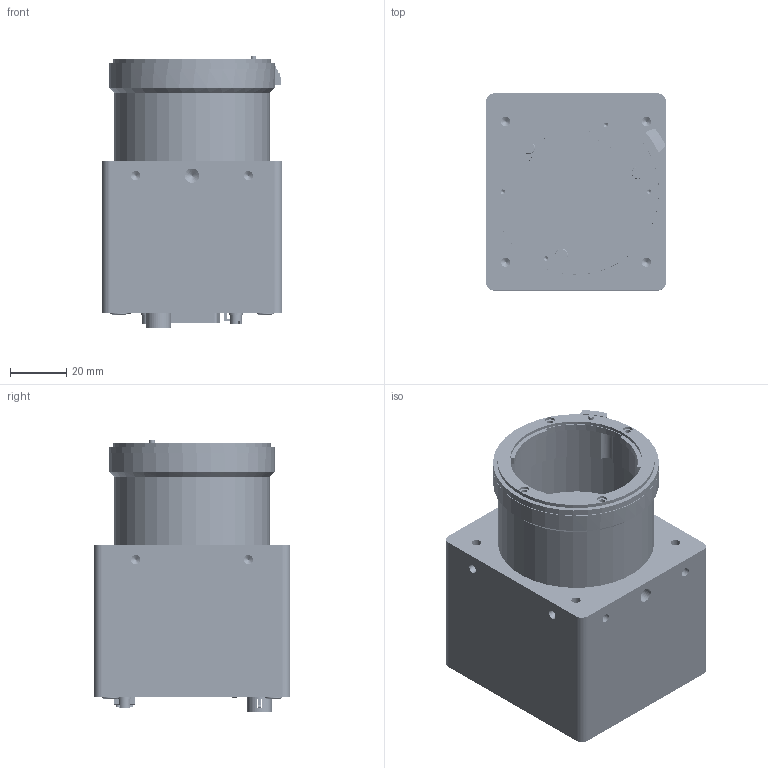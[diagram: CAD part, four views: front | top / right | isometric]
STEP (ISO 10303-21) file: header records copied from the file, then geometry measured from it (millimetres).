
FILE_DESCRIPTION (( 'STEP AP214' ), '1' );
FILE_NAME ('SUFi7440_SUi7450T2.STEP', '2019-04-18T01:15:12', ( '' ), ( '' ), 'SwSTEP 2.0', 'SolidWorks 2016', '' );
FILE_SCHEMA (( 'AUTOMOTIVE_DESIGN' ));
Length unit declared in the file: millimetre
Products named in the file (35): コネクタ^C5-5094-00-43_6／コネクタ_HR10G-7R-6PB; C5-5175-00-43_2／ピッチコネクタ_FX8C-100P-SV2; ATMELマウント本体筒; C5-5029-00-40_06／六角穴付ボルト M2.6X06 SUS_SCB2.6-6; 114-87-422-41-117101; C4-1108-02-37／フロントパネル; 菊座^C5-5094-00-43_6／コネクタ_HR10G-7R-6PB; C4-1013-01-37／胴体カバー; 基板^C5-1031-01-38／メイン基板_PCB-SUFi74R-M1-00#F; C5-5012-00-40_12／座付きなべ頭小ねじ（P=4) M2.6X12 SUS_CSPPNZP-SUS-M2.6-12; C5-5074-00-44_3_3.5／中空スペーサ_EM-3.5A; Part7^C5-1030-01-38／センサー基板_PCB-SUFi74R-S1-00#F; C5-5152-00-43／コネクタロック用ネジ_3341-31J; C5-5072-00-44_2／ピッチコネクタ_FX8C-60P-SV2; C5-5015-00-40_04／座付きなべ頭小ねじ（P=4) M2X04 SUS_CSPPNZP-SUS-M2-4_SUS; C0-1915-01-24／H型スペーサ; 基板^C5-1032-02-38／インターフェイス基板_PCB-SUFi74R-IF-00#F; C4-1012-01-37／リアカバー; C5-5064-00-44_6／スルーホールタップ_THC-1.6-6.0-2.6; C5-5078-00-44_18／六角スペーサ_2.6SQ-18; C5-5094-00-43_6／コネクタ_HR10G-7R-6PB; C5-1030-01-38／センサー基板_PCB-SUFi74R-S1-00#F; C5-1032-02-38／インターフェイス基板_PCB-SUFi74R-IF-00#F; ナット^C5-5094-00-43_6／コネクタ_HR10G-7R-6PB; C5-5133-00-43／コネクタ_10226-2210PE; C5-1031-01-38／メイン基板_PCB-SUFi74R-M1-00#F; C5-5086-00-43_20／スペーサ(六角)_BSB-2620E; C5-5171-00-43_5／ピッチコネクタ_FX8C-100S-SV5; Fマウント; C5-5135-00-43／発光ダイオード(緑)_SLR-332MG-3F; CZA07011／アトメルマウント; C5-5066-00-44_6／超極低頭ボルト_CBSTSE2.6-6; SUFi7440_SUi7450T2; C5-5091-00-43_10／コネクタ_DF11-10DP-2DS; C5-5073-00-44_5／ピッチコネクタ_FX8C-60S-SV5
Assembly tree (57 placements, depth 3):
  SUFi7440_SUi7450T2
    C4-1012-01-37／リアカバー
    C4-1013-01-37／胴体カバー
    C4-1108-02-37／フロントパネル
    C0-1915-01-24／H型スペーサ
    CZA07011／アトメルマウント
      ATMELマウント本体筒
      Fマウント
    C5-5094-00-43_6／コネクタ_HR10G-7R-6PB
      コネクタ^C5-5094-00-43_6／コネクタ_HR10G-7R-6PB
      菊座^C5-5094-00-43_6／コネクタ_HR10G-7R-6PB
      ナット^C5-5094-00-43_6／コネクタ_HR10G-7R-6PB
    C5-1030-01-38／センサー基板_PCB-SUFi74R-S1-00#F
      Part7^C5-1030-01-38／センサー基板_PCB-SUFi74R-S1-00#F
      C5-5064-00-44_6／スルーホールタップ_THC-1.6-6.0-2.6  x4
      C5-5072-00-44_2／ピッチコネクタ_FX8C-60P-SV2  x2
      114-87-422-41-117101
    C5-1031-01-38／メイン基板_PCB-SUFi74R-M1-00#F
      基板^C5-1031-01-38／メイン基板_PCB-SUFi74R-M1-00#F
      C5-5073-00-44_5／ピッチコネクタ_FX8C-60S-SV5  x2
      C5-5175-00-43_2／ピッチコネクタ_FX8C-100P-SV2
      C5-5091-00-43_10／コネクタ_DF11-10DP-2DS
    C5-1032-02-38／インターフェイス基板_PCB-SUFi74R-IF-00#F
      基板^C5-1032-02-38／インターフェイス基板_PCB-SUFi74R-IF-00#F
      C5-5133-00-43／コネクタ_10226-2210PE
      C5-5171-00-43_5／ピッチコネクタ_FX8C-100S-SV5
      C5-5135-00-43／発光ダイオード(緑)_SLR-332MG-3F
      C5-5074-00-44_3_3.5／中空スペーサ_EM-3.5A
    C5-5086-00-43_20／スペーサ(六角)_BSB-2620E  x4
    C5-5078-00-44_18／六角スペーサ_2.6SQ-18  x4
    C5-5015-00-40_04／座付きなべ頭小ねじ（P=4) M2X04 SUS_CSPPNZP-SUS-M2-4_SUS  x4
    C5-5012-00-40_12／座付きなべ頭小ねじ（P=4) M2.6X12 SUS_CSPPNZP-SUS-M2.6-12  x4
    C5-5029-00-40_06／六角穴付ボルト M2.6X06 SUS_SCB2.6-6  x3
    C5-5066-00-44_6／超極低頭ボルト_CBSTSE2.6-6  x4
    C5-5152-00-43／コネクタロック用ネジ_3341-31J  x2
Bounding box: 64 x 70 x 96.59 mm (x, y, z)
Volume: 118382.4 mm3; surface area: 111861 mm2
Topology: 60 solids, 67 shells, 8797 faces, 23284 edges, 15358 vertices
Faces by surface type: plane 6741, cylinder 1161, bspline 451, cone 415, torus 28, sphere 1
Full cylindrical faces by diameter (mm): 0.19 x1, 0.4 x2, 0.5 x6, 0.56 x22, 0.6 x6, 0.76 x22, 0.8 x2, 0.9 x6, 1 x22, 1.1 x22, 1.18 x22, 1.46 x22, 1.5 x2, 1.6 x8, 1.688 x4, 2 x13, 2.2 x34, 2.261 x4, 2.288 x4, 2.6 x16, 2.7 x4, 2.8 x7, 3 x4, 3.2 x2, 3.3 x16, 3.5 x9, 3.6 x4, 3.8 x4, 4 x5, 4.1 x2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
Entity records: 242359 total; most frequent: CARTESIAN_POINT 57787, ORIENTED_EDGE 34804, DIRECTION 30757, EDGE_CURVE 17402, LINE 14211, VECTOR 14211, VERTEX_POINT 11855, EDGE_LOOP 8477
